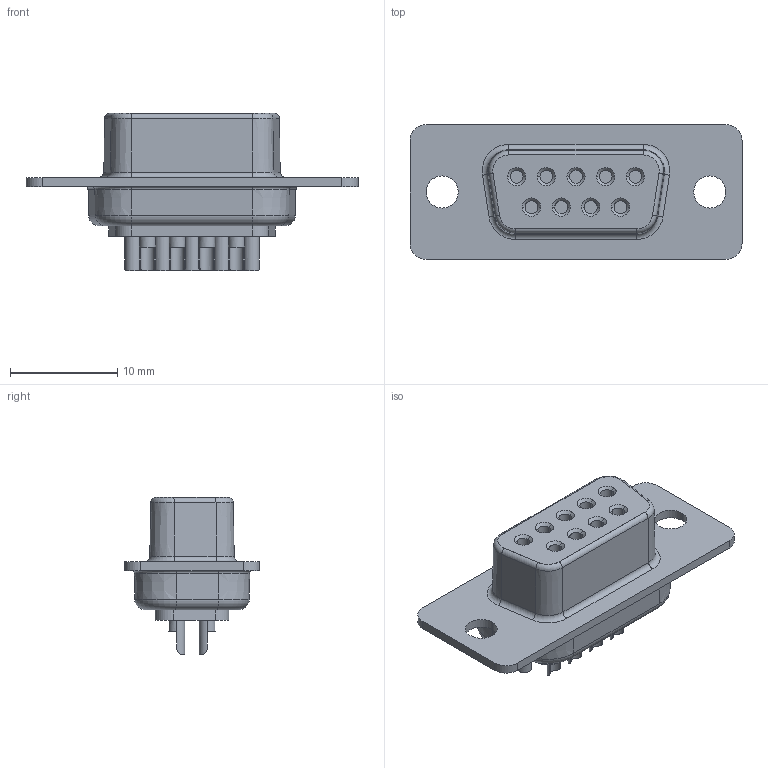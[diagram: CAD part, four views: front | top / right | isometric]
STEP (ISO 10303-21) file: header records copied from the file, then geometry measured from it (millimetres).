
FILE_DESCRIPTION(('CATIA V5 STEP Exchange'),'2;1');
FILE_NAME('X:\XDrive\Homepage\homes\techecke\elektronik\download\SUB-D-9_weiblich.stp','2023-11-20T21:02:07+00:00',('none'),('none'),'CATIA Version 5 Release 19 SP 2 (IN-10)','CATIA V5 STEP AP203','none');
FILE_SCHEMA(('CONFIG_CONTROL_DESIGN'));
Length unit declared in the file: millimetre
Products named in the file (1): SUB-D-9_weiblich
Bounding box: 31 x 12.6 x 14.7 mm (x, y, z)
Volume: 1712.6 mm3; surface area: 1847.8 mm2
Topology: 1 solids, 1 shells, 243 faces, 566 edges, 346 vertices
Faces by surface type: cylinder 122, plane 79, cone 26, torus 16
Entity records: 6589 total; most frequent: CARTESIAN_POINT 1631, ORIENTED_EDGE 1132, DIRECTION 760, EDGE_CURVE 566, VERTEX_POINT 346, AXIS2_PLACEMENT_3D 343, VECTOR 276, LINE 276
